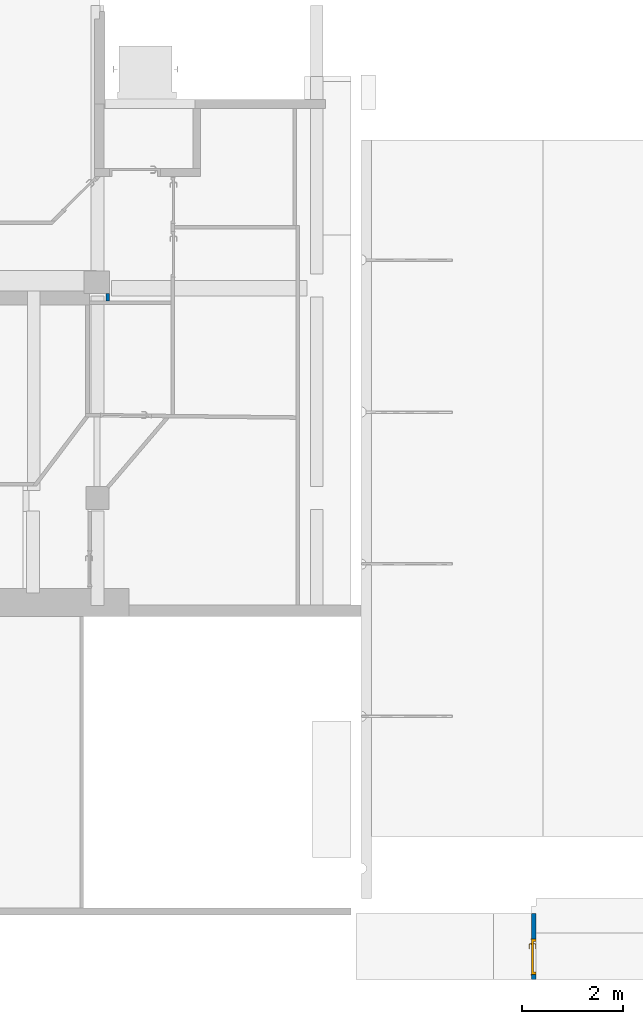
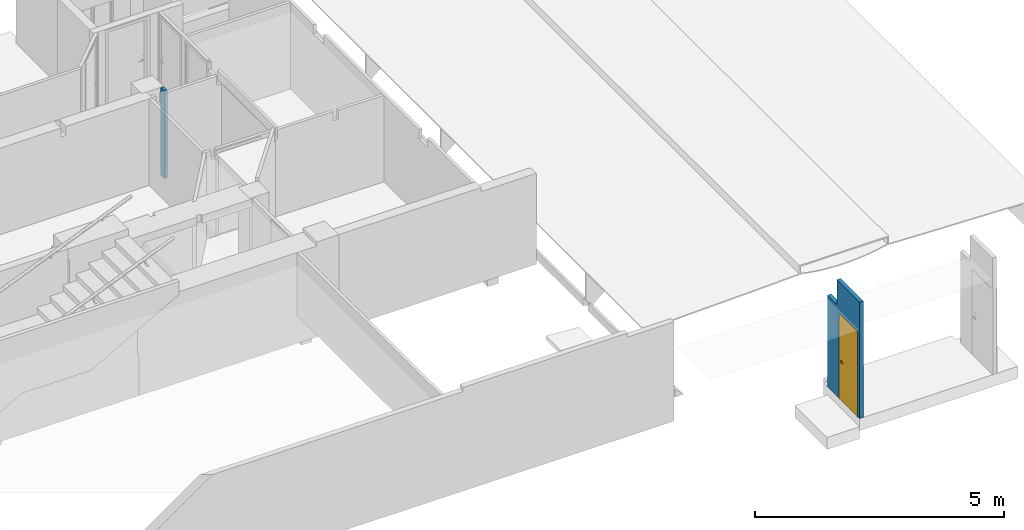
# One storey, part 6 of 32: 2 walls, 1 door, 1 opening.
"""IFC4 building model written with IfcOpenShell, lengths in metres."""

from ifc_helpers import new_model, entity, si_unit, converted_unit, derived_unit, direction, frame, origin, place, context, subcontext, project, spatial, indexed_curve, outline, extrude, polygons, source, transform, mapped, material, material_list, layer, layer_set, constituent, constituent_set, type_object, type_shapes, element, fill, save


model = new_model("IFC4")

# Units and contexts
model_context = context("Model", 3, precision=1e-05, world=origin(), true_north=direction((6.12303176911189e-17, 1.0)))
body_context = subcontext(model_context, "Body", "Model", "MODEL_VIEW")
ifc_project = project(units=[si_unit("LENGTHUNIT", "METRE"), si_unit("AREAUNIT", "SQUARE_METRE"), si_unit("VOLUMEUNIT", "CUBIC_METRE"), converted_unit("PLANEANGLEUNIT", "DEGREE", entity("IfcRatioMeasure", 0.0174532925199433), si_unit("PLANEANGLEUNIT", "RADIAN"), dimensions=[0, 0, 0, 0, 0, 0, 0]), si_unit("MASSUNIT", "GRAM", prefix="KILO"), derived_unit("MASSDENSITYUNIT", [(si_unit("MASSUNIT", "GRAM", prefix="KILO"), 1), (si_unit("LENGTHUNIT", "METRE"), -3)]), derived_unit("MOMENTOFINERTIAUNIT", [(si_unit("LENGTHUNIT", "METRE"), 4)]), si_unit("TIMEUNIT", "SECOND"), si_unit("FREQUENCYUNIT", "HERTZ"), si_unit("THERMODYNAMICTEMPERATUREUNIT", "DEGREE_CELSIUS"), derived_unit("THERMALTRANSMITTANCEUNIT", [(si_unit("MASSUNIT", "GRAM", prefix="KILO"), 1), (si_unit("THERMODYNAMICTEMPERATUREUNIT", "KELVIN"), -1), (si_unit("TIMEUNIT", "SECOND"), -3)]), derived_unit("VOLUMETRICFLOWRATEUNIT", [(si_unit("LENGTHUNIT", "METRE"), 3), (si_unit("TIMEUNIT", "SECOND"), -1)]), si_unit("ELECTRICCURRENTUNIT", "AMPERE"), si_unit("ELECTRICVOLTAGEUNIT", "VOLT"), si_unit("POWERUNIT", "WATT"), si_unit("FORCEUNIT", "NEWTON", prefix="KILO"), si_unit("ILLUMINANCEUNIT", "LUX"), si_unit("LUMINOUSFLUXUNIT", "LUMEN"), si_unit("LUMINOUSINTENSITYUNIT", "CANDELA"), derived_unit("USERDEFINED", [(si_unit("MASSUNIT", "GRAM", prefix="KILO"), -1), (si_unit("LENGTHUNIT", "METRE"), -2), (si_unit("TIMEUNIT", "SECOND"), 3), (si_unit("LUMINOUSFLUXUNIT", "LUMEN"), 1)]), derived_unit("LINEARVELOCITYUNIT", [(si_unit("LENGTHUNIT", "METRE"), 1), (si_unit("TIMEUNIT", "SECOND"), -1)]), si_unit("PRESSUREUNIT", "PASCAL"), derived_unit("USERDEFINED", [(si_unit("LENGTHUNIT", "METRE"), -2), (si_unit("MASSUNIT", "GRAM", prefix="KILO"), 1), (si_unit("TIMEUNIT", "SECOND"), -2)]), derived_unit("LINEARFORCEUNIT", [(si_unit("MASSUNIT", "GRAM", prefix="KILO"), 1), (si_unit("LENGTHUNIT", "METRE"), 1), (si_unit("TIMEUNIT", "SECOND"), -2), (si_unit("LENGTHUNIT", "METRE"), -1)]), derived_unit("PLANARFORCEUNIT", [(si_unit("MASSUNIT", "GRAM", prefix="KILO"), 1), (si_unit("LENGTHUNIT", "METRE"), 1), (si_unit("TIMEUNIT", "SECOND"), -2), (si_unit("LENGTHUNIT", "METRE"), -2)])], contexts=[model_context])

# Site, building, storey
site_placement = place(None, origin())
site = spatial("IfcSite", under=ifc_project, at=site_placement, Name="Default", CompositionType="ELEMENT")
building_placement = place(site_placement, origin())
building = spatial("IfcBuilding", under=site, at=building_placement, Name="HOTEL CONSULAIRE BOULOGNE SUR MER", CompositionType="ELEMENT")
storey_placement = place(building_placement, frame((0.0, 0.0, -2.70343668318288)))
storey = spatial("IfcBuildingStorey", under=building, at=storey_placement, Name="SS1", CompositionType="ELEMENT", Elevation=-2.70343668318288)

# Wall
ifc_material_1 = material(Name="Mur par défaut", Category="Divers")
ifc_layer_1 = layer(ifc_material_1, 0.07, Name="Mur par défaut", Category="Divers")
ifc_layer_set_1 = layer_set([ifc_layer_1], Name="Mur de base:Générique - Int. 70 mm")
wall_type_1 = type_object("IfcWallType", Name="Mur de base:Générique - Int. 70 mm", PredefinedType="NOTDEFINED", material=ifc_layer_set_1)
wall_1_placement = place(storey_placement, frame((7.36857495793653, -15.7990975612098, 0.294), z_axis=(0.0, 0.0, 1.0), x_axis=(0.0, -1.0, 0.0)))
element("IfcWall", 1, at=wall_1_placement, inside=storey, type_object=wall_type_1, material=ifc_layer_set_1, Name="Mur de base:Générique - Int. 70 mm", ObjectType="Mur de base:Générique - Int. 70 mm", PredefinedType="NOTDEFINED", context=body_context, shape_type="SweptSolid", body=[
    extrude(outline(indexed_curve([(0.149986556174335, 0.0349999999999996), (0.0, 0.0349999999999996), (0.0, -0.0349999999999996), (0.149986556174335, -0.0349999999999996), (0.149986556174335, 0.0349999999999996)], self_intersect=False)), origin(), (0.0, 0.0, 1.0), 2.13943668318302),
])

# Wall, opening, door
ifc_layer_2 = layer(ifc_material_1, 0.09, Name="Mur par défaut", Category="Divers")
ifc_layer_set_2 = layer_set([ifc_layer_2], Name="Mur de base:Générique - Int. 90")
wall_type_2 = type_object("IfcWallType", Name="Mur de base:Générique - Int. 90", PredefinedType="NOTDEFINED", material=ifc_layer_set_2)
wall_2_placement = place(storey_placement, frame((15.7649055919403, -29.3180671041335, -0.418774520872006), z_axis=(0.0, 0.0, 1.0), x_axis=(0.0, 1.0, 0.0)))
wall_2 = element("IfcWall", 2, at=wall_2_placement, inside=storey, type_object=wall_type_2, material=ifc_layer_set_2, Name="Mur de base:Générique - Int. 90", ObjectType="Mur de base:Générique - Int. 90", PredefinedType="NOTDEFINED", context=body_context, shape_type="Tessellation", body=[
    polygons([(0.792999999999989, -0.0449999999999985, 0.0), (0.792999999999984, 0.0450000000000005, 0.0), (1.29424399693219, 0.0450000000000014, 0.0), (1.29424399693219, -0.0449999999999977, 0.0), (0.0, -0.0449999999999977, 2.85221120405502), (0.0, -0.0449999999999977, 0.0), (0.0929999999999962, -0.0449999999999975, 0.0), (0.0929999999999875, -0.0449999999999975, 2.07497452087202), (0.792999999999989, -0.0449999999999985, 2.07497452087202), (1.29424399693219, -0.0449999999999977, 2.24221120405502), (0.914243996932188, -0.0449999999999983, 2.24221120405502), (0.914243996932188, -0.0449999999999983, 2.85221120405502), (0.0, 0.0450000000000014, 0.0), (0.0, 0.0450000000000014, 2.85221120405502), (0.914243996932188, 0.0450000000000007, 2.85221120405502), (0.914243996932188, 0.0450000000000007, 2.24221120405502), (1.29424399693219, 0.0450000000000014, 2.24221120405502), (0.792999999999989, 0.0450000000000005, 2.07497452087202), (0.0929999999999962, 0.0450000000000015, 2.07497452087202), (0.0929999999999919, 0.0450000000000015, 0.0)], [[[4, 1, 2, 3]], [[7, 6, 13, 20]], [[8, 19, 18, 9]], [[6, 7, 8, 9, 1, 4, 10, 11, 12, 5]], [[18, 19, 20, 13, 14, 15, 16, 17, 3, 2]], [[5, 12, 15, 14]], [[16, 11, 10, 17]], [[13, 6, 5, 14]], [[9, 18, 2, 1]], [[7, 20, 19, 8]], [[10, 4, 3, 17]], [[15, 12, 11, 16]]], closed=True),
])
opening_placement = place(wall_2_placement, frame((0.0929999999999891, -0.0450000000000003, -2.54791279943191e-05)))
opening = element("IfcOpeningElement", 3, at=opening_placement, cuts=wall_2, Name="Int. Simple:PP (0.63m x 2.04m):1", ObjectType="Opening", PredefinedType="OPENING", context=body_context, shape_type="SweptSolid", body=[
    extrude(outline(indexed_curve([(0.0, 2.70716782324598e-15), (2.07500000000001, 2.70716782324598e-15), (2.07500000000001, 0.699999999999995), (0.0, 0.699999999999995), (0.0, 2.70716782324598e-15)], self_intersect=False)), frame((0.0, 0.0, 0.0), z_axis=(0.0, 1.0, 0.0), x_axis=(0.0, 0.0, 1.0)), (0.0, 0.0, 1.0), 0.09),
])
ifc_material_2 = material(Name="Finition Peinture - Blanc satiné", Category="Peinture")
ifc_constituent_1 = constituent(ifc_material_2, Name="Finition Peinture - Blanc satiné", Category="Matériaux")
ifc_material_3 = material(Name="Bois - Panneau de porte", Category="Bois")
ifc_constituent_2 = constituent(ifc_material_3, Name="Bois - Panneau de porte", Category="Matériaux")
ifc_material_4 = material(Name="Bois - Cadre de porte", Category="Bois")
ifc_constituent_3 = constituent(ifc_material_4, Name="Bois - Cadre de porte", Category="Matériaux")
ifc_constituent_set = constituent_set(constituents=[ifc_constituent_1, ifc_constituent_2, ifc_constituent_3], Name="MaterialConstituentSet")
ifc_material_list = material_list([ifc_material_2, ifc_material_3, ifc_material_4, ifc_material_4])
door_type = type_object("IfcDoorType", Name="Int. Simple:PP (0.63m x 2.04m)", OperationType="NOTDEFINED", PredefinedType="DOOR", material=ifc_material_list)
shared_shape = source(origin(), body_context, "Body", "Tessellation", [
    polygons([(0.0750000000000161, -0.00500000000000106, 0.870000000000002), (0.0846472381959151, -0.00500000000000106, 0.866003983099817), (0.0950000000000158, -0.00500000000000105, 0.86464101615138), (0.105352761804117, -0.00500000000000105, 0.866003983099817), (0.115000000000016, -0.00500000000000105, 0.870000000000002), (0.115000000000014, -0.00500000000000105, 1.08), (0.105352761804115, -0.00500000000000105, 1.08399601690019), (0.0950000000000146, -0.00500000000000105, 1.08535898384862), (0.0846472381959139, -0.00500000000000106, 1.08399601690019), (0.0750000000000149, -0.00500000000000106, 1.08), (0.0750000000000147, -1.06594733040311e-15, 0.870000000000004), (0.075000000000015, -1.06594733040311e-15, 1.08), (0.084647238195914, -1.06594733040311e-15, 1.08399601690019), (0.0950000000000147, -1.05748743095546e-15, 1.08535898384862), (0.105352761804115, -1.05748743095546e-15, 1.08399601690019), (0.115000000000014, -1.04902753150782e-15, 1.08), (0.115000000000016, -1.04902753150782e-15, 0.870000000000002), (0.105352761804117, -1.05748743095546e-15, 0.866003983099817), (0.0950000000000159, -1.05748743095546e-15, 0.86464101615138), (0.0846472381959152, -1.06594733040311e-15, 0.866003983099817)], [[[4, 5, 6, 7, 8, 9, 10, 1, 2, 3]], [[15, 16, 17, 18, 19, 20, 11, 12, 13, 14]], [[11, 20, 2, 1]], [[2, 20, 19, 3]], [[19, 18, 4, 3]], [[18, 17, 5, 4]], [[6, 5, 17, 16]], [[16, 15, 7, 6]], [[7, 15, 14, 8]], [[14, 13, 9, 8]], [[13, 12, 10, 9]], [[1, 10, 12, 11]]], closed=True),
    polygons([(0.115000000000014, 0.0399999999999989, 1.08), (0.105352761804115, 0.0399999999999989, 1.08399601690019), (0.0950000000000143, 0.0399999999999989, 1.08535898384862), (0.0846472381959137, 0.0399999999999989, 1.08399601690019), (0.0750000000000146, 0.0399999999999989, 1.08), (0.0750000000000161, 0.0399999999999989, 0.870000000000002), (0.0846472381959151, 0.0399999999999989, 0.866003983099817), (0.0950000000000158, 0.0399999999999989, 0.86464101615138), (0.105352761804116, 0.0399999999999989, 0.866003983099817), (0.115000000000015, 0.0399999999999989, 0.870000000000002), (0.115000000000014, 0.0449999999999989, 1.08), (0.115000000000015, 0.0449999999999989, 0.870000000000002), (0.105352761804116, 0.0449999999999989, 0.866003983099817), (0.0950000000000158, 0.0449999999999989, 0.86464101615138), (0.0846472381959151, 0.0449999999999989, 0.866003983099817), (0.0750000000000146, 0.0449999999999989, 0.870000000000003), (0.0750000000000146, 0.0449999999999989, 1.08), (0.0846472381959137, 0.0449999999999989, 1.08399601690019), (0.0950000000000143, 0.0449999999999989, 1.08535898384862), (0.105352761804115, 0.0449999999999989, 1.08399601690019)], [[[9, 10, 1, 2, 3, 4, 5, 6, 7, 8]], [[20, 11, 12, 13, 14, 15, 16, 17, 18, 19]], [[11, 20, 2, 1]], [[2, 20, 19, 3]], [[19, 18, 4, 3]], [[18, 17, 5, 4]], [[6, 5, 17, 16]], [[16, 15, 7, 6]], [[7, 15, 14, 8]], [[14, 13, 9, 8]], [[13, 12, 10, 9]], [[1, 10, 12, 11]]], closed=True),
    polygons([(0.0889999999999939, -0.00500000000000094, 1.007), (0.0929747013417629, -0.00500000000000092, 1.00778044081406), (0.0970252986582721, -0.0050000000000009, 1.00778044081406), (0.101000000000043, -0.00500000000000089, 1.00699999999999), (0.101000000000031, -0.00500000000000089, 0.993000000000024), (0.097025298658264, -0.0050000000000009, 0.992219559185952), (0.0929747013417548, -0.00500000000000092, 0.99221955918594), (0.088999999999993, -0.00500000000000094, 0.992999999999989), (0.0889999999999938, -0.0326509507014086, 1.007), (0.0929747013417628, -0.0310045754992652, 1.00778044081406), (0.097025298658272, -0.0293267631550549, 1.00778044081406), (0.101000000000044, -0.0276803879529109, 1.007), (0.101000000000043, -0.0276803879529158, 0.993000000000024), (0.097025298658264, -0.0293267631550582, 0.992219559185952), (0.0929747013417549, -0.0310045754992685, 0.99221955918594), (0.0889999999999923, -0.0326509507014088, 0.992999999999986), (0.107377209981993, -0.0510281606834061, 1.007), (0.109023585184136, -0.0470534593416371, 1.00778044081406), (0.110701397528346, -0.0430028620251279, 1.00778044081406), (0.112347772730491, -0.0390281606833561, 1.007), (0.112347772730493, -0.0390281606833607, 0.993000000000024), (0.110701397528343, -0.0430028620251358, 0.992219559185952), (0.109023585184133, -0.047053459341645, 0.99221955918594), (0.107377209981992, -0.0510281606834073, 0.992999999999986), (0.195018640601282, -0.0510281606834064, 1.00699999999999), (0.195018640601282, -0.0510281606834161, 0.992999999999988), (0.195018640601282, -0.0470534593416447, 0.99221955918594), (0.195018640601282, -0.0430028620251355, 0.992219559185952), (0.195018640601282, -0.039028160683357, 0.993000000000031), (0.195018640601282, -0.0390281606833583, 1.007), (0.195018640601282, -0.0430028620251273, 1.00778044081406), (0.195018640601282, -0.0470534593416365, 1.00778044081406), (0.147307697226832, -0.0510281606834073, 1.007), (0.152860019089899, -0.045028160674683, 1.0078786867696), (0.153683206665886, -0.039028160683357, 1.007), (0.147307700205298, -0.0510281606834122, 0.992999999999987), (0.152860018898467, -0.0450281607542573, 0.992121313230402), (0.153683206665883, -0.039028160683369, 0.993000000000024)], [[[2, 3, 4, 5, 6, 7, 8, 1]], [[21, 20, 35, 30, 29, 38]], [[9, 10, 2, 1]], [[10, 18, 19, 11, 3, 2]], [[11, 12, 4, 3]], [[5, 4, 12, 13]], [[26, 27, 28, 29, 30, 31, 32, 25]], [[13, 14, 6, 5]], [[14, 22, 23, 15, 7, 6]], [[15, 16, 8, 7]], [[1, 8, 16, 9]], [[17, 18, 10, 9]], [[19, 20, 12, 11]], [[13, 12, 20, 21]], [[21, 22, 14, 13]], [[23, 24, 16, 15]], [[9, 16, 24, 17]], [[33, 32, 34]], [[25, 32, 33]], [[18, 17, 33]], [[34, 35, 19]], [[20, 19, 35]], [[35, 31, 30]], [[32, 31, 34]], [[31, 35, 34]], [[18, 33, 34]], [[18, 34, 19]], [[38, 28, 37]], [[36, 37, 27]], [[21, 38, 22]], [[38, 29, 28]], [[26, 36, 27]], [[24, 23, 36]], [[36, 23, 37]], [[23, 22, 37]], [[22, 38, 37]], [[27, 37, 28]], [[17, 24, 36, 26, 25, 33]]], closed=True),
    polygons([(0.101000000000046, 0.0449999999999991, 0.993000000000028), (0.101000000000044, 0.0449999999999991, 1.007), (0.0970252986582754, 0.0449999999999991, 1.00778044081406), (0.0929747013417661, 0.0449999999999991, 1.00778044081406), (0.0889999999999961, 0.044999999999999, 1.007), (0.0889999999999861, 0.044999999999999, 0.992999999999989), (0.0929747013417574, 0.0449999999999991, 0.99221955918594), (0.0970252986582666, 0.0449999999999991, 0.992219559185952), (0.101000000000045, 0.067485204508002, 0.993000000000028), (0.101000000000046, 0.0674852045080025, 1.007), (0.0970252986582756, 0.0691315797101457, 1.00778044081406), (0.0929747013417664, 0.070809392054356, 1.00778044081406), (0.0889999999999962, 0.0724557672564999, 1.007), (0.0889999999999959, 0.072455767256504, 0.992999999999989), (0.0929747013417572, 0.0708093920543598, 0.99221955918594), (0.0970252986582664, 0.0691315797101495, 0.992219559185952), (0.112485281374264, 0.0789704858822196, 0.993000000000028), (0.112485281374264, 0.0789704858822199, 1.007), (0.11083890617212, 0.0829451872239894, 1.00778044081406), (0.10916109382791, 0.0869957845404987, 1.00778044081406), (0.107514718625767, 0.0909704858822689, 1.007), (0.107514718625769, 0.090970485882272, 0.992999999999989), (0.109161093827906, 0.0869957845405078, 0.99221955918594), (0.110838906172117, 0.0829451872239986, 0.992219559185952), (0.19504578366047, 0.0789704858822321, 0.993000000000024), (0.19504578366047, 0.0829451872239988, 0.992219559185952), (0.19504578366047, 0.086995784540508, 0.99221955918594), (0.19504578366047, 0.0909704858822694, 0.992999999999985), (0.19504578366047, 0.0909704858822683, 1.007), (0.19504578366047, 0.0869957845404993, 1.00778044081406), (0.19504578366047, 0.0829451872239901, 1.00778044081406), (0.19504578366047, 0.0789704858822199, 1.007), (0.147445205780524, 0.0909704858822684, 1.007), (0.15294234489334, 0.0849704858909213, 1.0078786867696), (0.153765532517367, 0.0789704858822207, 1.007), (0.147445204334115, 0.0909704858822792, 0.992999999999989), (0.152942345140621, 0.0849704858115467, 0.992121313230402), (0.153765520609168, 0.0789704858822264, 0.993000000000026)], [[[4, 5, 6, 7, 8, 1, 2, 3]], [[18, 17, 38, 25, 32, 35]], [[2, 1, 9, 10]], [[25, 26, 27, 28, 29, 30, 31, 32]], [[10, 11, 3, 2]], [[11, 19, 20, 12, 4, 3]], [[12, 13, 5, 4]], [[6, 5, 13, 14]], [[14, 15, 7, 6]], [[15, 23, 24, 16, 8, 7]], [[16, 9, 1, 8]], [[10, 9, 17, 18]], [[18, 19, 11, 10]], [[20, 21, 13, 12]], [[14, 13, 21, 22]], [[22, 23, 15, 14]], [[24, 17, 9, 16]], [[35, 31, 34]], [[33, 34, 30]], [[18, 35, 19]], [[35, 32, 31]], [[29, 33, 30]], [[21, 20, 33]], [[33, 20, 34]], [[20, 19, 34]], [[19, 35, 34]], [[30, 34, 31]], [[21, 33, 29, 28, 36, 22]], [[36, 27, 37]], [[28, 27, 36]], [[23, 22, 36]], [[37, 38, 24]], [[17, 24, 38]], [[38, 26, 25]], [[27, 26, 37]], [[26, 38, 37]], [[23, 36, 37]], [[23, 37, 24]]], closed=True),
    polygons([(0.0350000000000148, 0.04, 2.04), (0.665000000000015, 0.04, 2.04), (0.665000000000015, 0.04, 0.0), (0.0350000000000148, 0.04, 0.0), (0.0350000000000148, 3.38395977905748e-17, 2.04), (0.0350000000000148, 3.38395977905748e-17, 0.0), (0.665000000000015, 3.38395977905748e-17, 0.0), (0.665000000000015, 3.38395977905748e-17, 2.04)], [[[4, 1, 2, 3]], [[7, 8, 5, 6]], [[2, 1, 5, 8]], [[3, 2, 8, 7]], [[4, 3, 7, 6]], [[1, 4, 6, 5]]], closed=True),
    polygons([(-2.70716782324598e-16, 8.45989944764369e-18, 0.0), (-2.70716782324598e-16, 0.090000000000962, 0.0), (0.050000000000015, 0.090000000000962, 0.0), (0.050000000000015, 0.0400000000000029, 0.0), (0.0350000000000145, 0.0400000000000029, 0.0), (0.0350000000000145, 8.45989944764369e-18, 0.0), (-2.03037586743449e-16, 8.45989944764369e-18, 2.07500000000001), (-2.03037586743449e-16, 0.090000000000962, 2.07500000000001), (0.699999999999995, 0.090000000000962, 2.07500000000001), (0.699999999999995, 0.090000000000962, 1.16645647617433e-24), (0.64999999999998, 0.090000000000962, -1.79828591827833e-24), (0.64999999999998, 0.090000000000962, 2.025), (0.0500000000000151, 0.090000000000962, 2.02499999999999), (0.0500000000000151, 0.0400000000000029, 2.02499999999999), (0.64999999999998, 0.0400000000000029, 2.025), (0.64999999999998, 0.0400000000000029, 1.49408317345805e-25), (0.66499999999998, 0.0400000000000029, 1.4641916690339e-24), (0.66499999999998, 0.0400000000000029, 2.04), (0.0350000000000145, 0.0400000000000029, 2.04), (0.0350000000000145, 8.45989944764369e-18, 2.04), (0.66499999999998, 8.45989944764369e-18, 2.04), (0.66499999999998, 8.45989944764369e-18, 0.0), (0.699999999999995, 8.45989944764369e-18, 4.03399441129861e-24), (0.699999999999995, 8.45989944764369e-18, 2.07500000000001)], [[[5, 6, 1, 2, 3, 4]], [[11, 10, 23, 22, 17, 16]], [[14, 13, 12, 15]], [[20, 19, 18, 21]], [[2, 1, 7, 8]], [[15, 12, 11, 16]], [[21, 18, 17, 22]], [[3, 2, 8, 9, 10, 11, 12, 13]], [[4, 3, 13, 14]], [[6, 5, 19, 20]], [[9, 24, 23, 10]], [[16, 17, 18, 19, 5, 4, 14, 15]], [[22, 23, 24, 7, 1, 6, 20, 21]], [[8, 7, 24, 9]]], closed=True),
    polygons([(0.0149999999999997, 0.090000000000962, 0.0), (-0.0150000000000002, 0.090000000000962, 0.0), (-0.0150000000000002, 0.095000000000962, 0.0), (0.0149999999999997, 0.095000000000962, 0.0), (0.0149999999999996, 0.090000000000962, 2.06000000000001), (0.684999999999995, 0.090000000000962, 2.06000000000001), (0.684999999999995, 0.090000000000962, -5.40476895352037e-24), (0.714999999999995, 0.090000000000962, 1.09662010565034e-24), (0.714999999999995, 0.090000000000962, 2.09000000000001), (-0.0150000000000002, 0.090000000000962, 2.09000000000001), (-0.0150000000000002, 0.095000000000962, 2.09000000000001), (0.714999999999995, 0.095000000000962, 2.09000000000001), (0.714999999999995, 0.095000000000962, 9.94022571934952e-24), (0.684999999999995, 0.095000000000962, 3.01102000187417e-24), (0.684999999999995, 0.095000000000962, 2.06000000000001), (0.0149999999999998, 0.095000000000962, 2.06000000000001)], [[[1, 2, 3, 4]], [[14, 13, 8, 7]], [[5, 16, 15, 6]], [[7, 8, 9, 10, 2, 1, 5, 6]], [[3, 2, 10, 11]], [[6, 15, 14, 7]], [[4, 3, 11, 12, 13, 14, 15, 16]], [[1, 4, 16, 5]], [[12, 9, 8, 13]], [[11, 10, 9, 12]]], closed=True),
    polygons([(0.0149999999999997, -0.00500000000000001, 0.0), (-0.0150000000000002, -0.00500000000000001, 0.0), (-0.0150000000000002, 8.45989944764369e-18, 0.0), (0.0149999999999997, 8.45989944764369e-18, 0.0), (0.684999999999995, -0.00500000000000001, -5.41433564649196e-16), (0.684999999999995, 8.45989944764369e-18, -5.41433564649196e-16), (0.714999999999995, 8.45989944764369e-18, -5.41433564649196e-16), (0.714999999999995, -0.00500000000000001, -5.41433564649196e-16), (0.0149999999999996, -0.00500000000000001, 2.06000000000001), (0.684999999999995, -0.00500000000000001, 2.06000000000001), (0.714999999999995, -0.00500000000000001, 2.09000000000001), (-0.0150000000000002, -0.00500000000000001, 2.09000000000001), (-0.0150000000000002, 8.45989944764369e-18, 2.09000000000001), (0.714999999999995, 8.45989944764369e-18, 2.09000000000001), (0.684999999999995, 8.45989944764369e-18, 2.06000000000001), (0.0149999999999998, 8.45989944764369e-18, 2.06000000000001)], [[[1, 2, 3, 4]], [[6, 7, 8, 5]], [[9, 16, 15, 10]], [[5, 8, 11, 12, 2, 1, 9, 10]], [[3, 2, 12, 13]], [[10, 15, 6, 5]], [[4, 3, 13, 14, 7, 6, 15, 16]], [[1, 4, 16, 9]], [[14, 11, 8, 7]], [[13, 12, 11, 14]]], closed=True),
])
type_shapes(door_type, [shared_shape])
door_placement = place(opening_placement, frame((0.699999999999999, 0.0899999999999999, 0.0), z_axis=(0.0, 0.0, 1.0), x_axis=(-1.0, 0.0, 0.0)))
door = element("IfcDoor", 4, at=door_placement, inside=storey, type_object=door_type, material=ifc_constituent_set, Name="Int. Simple:PP (0.63m x 2.04m)", ObjectType="Int. Simple:PP (0.63m x 2.04m)", OperationType="NOTDEFINED", OverallHeight=2.07500000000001, OverallWidth=0.699999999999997, PredefinedType="DOOR", context=body_context, shape_type="MappedRepresentation", body=[
    mapped(shared_shape, transform((0.0, 0.0, 0.0), scale=1.0)),
])
fill(opening, door)

save(model, "model.ifc")
